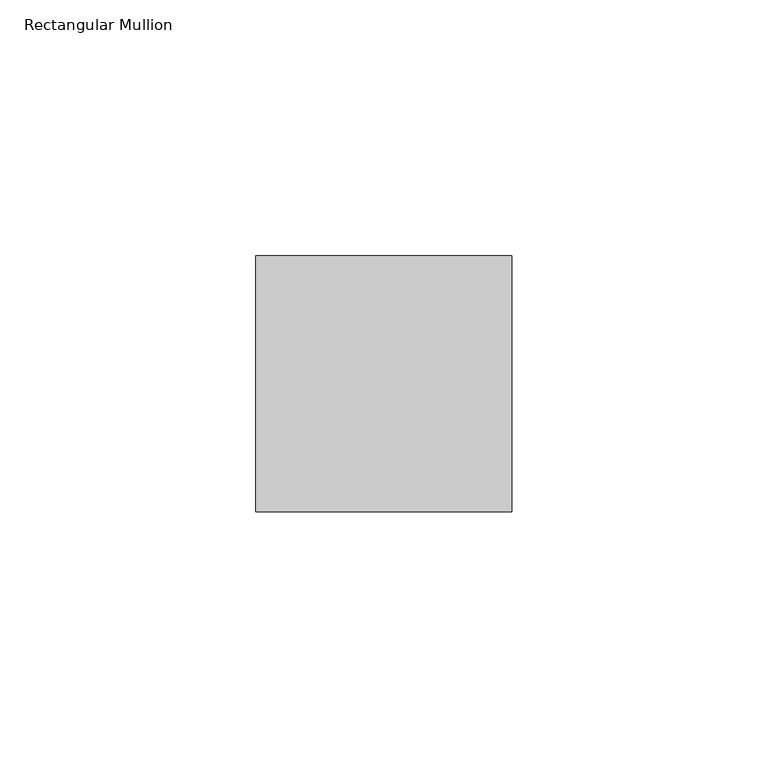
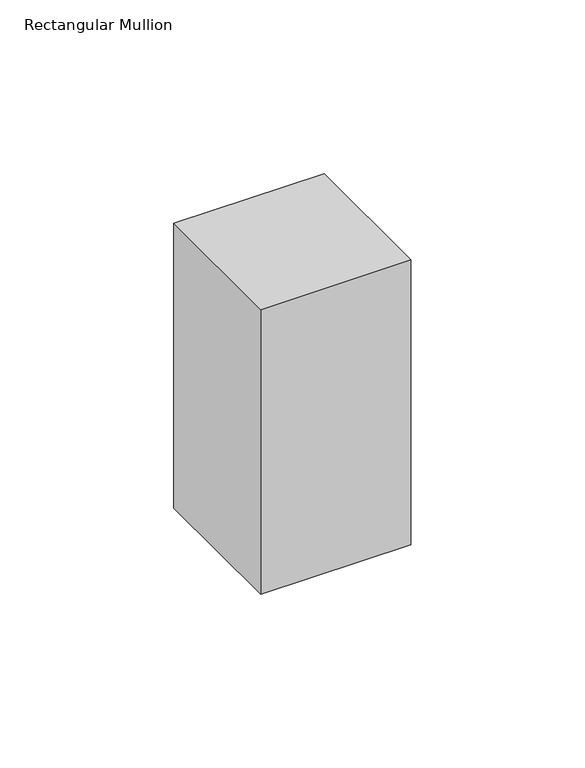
"""IFC4 building model written with IfcOpenShell, lengths in millimetres: member geometry, Rectangular Mullion : RSen_21_CWM_support profile 50x50 - left_gen_duco projects."""

from ifc_helpers import new_model, si_unit, frame, origin, place, context, project, spatial, polyline, outline, extrude, source, transform, mapped, element, save


def rectangular_mullion_cddbc660(model_context):
    return source(origin(), model_context, "Body", "SweptSolid", [
        extrude(outline(polyline([(0.0, 1.0), (0.0, -49.0), (-50.0, -49.0), (-50.0, 1.0), (0.0, 1.0)])), frame((0.0, 0.0, -100.0), z_axis=(0.0, 0.0, 1.0), x_axis=(1.0, 0.0, 0.0)), (0.0, 0.0, 1.0), 100.0),
    ])


if __name__ == "__main__":
    model = new_model("IFC4")
    model_context = context("Model", 3, world=origin())
    ifc_project = project(units=[si_unit("LENGTHUNIT", "METRE", prefix="MILLI")], contexts=[model_context])
    site = spatial("IfcSite", under=ifc_project)
    building = spatial("IfcBuilding", under=site)
    placement = place(None, origin())
    rectangular_mullion_shape = rectangular_mullion_cddbc660(model_context)
    element("IfcMember", 1, ObjectType="Rectangular Mullion : RSen_21_CWM_support profile 50x50 - left_gen_duco projects", at=placement, inside=building, context=model_context, shape_type="MappedRepresentation", body=[
        mapped(rectangular_mullion_shape, transform((0.0, 0.0, 0.0), x_axis=(1.0, 0.0, 0.0), y_axis=(0.0, 1.0, 0.0), z_axis=(0.0, 0.0, 1.0))),
    ])
    save(model, "model.ifc")
